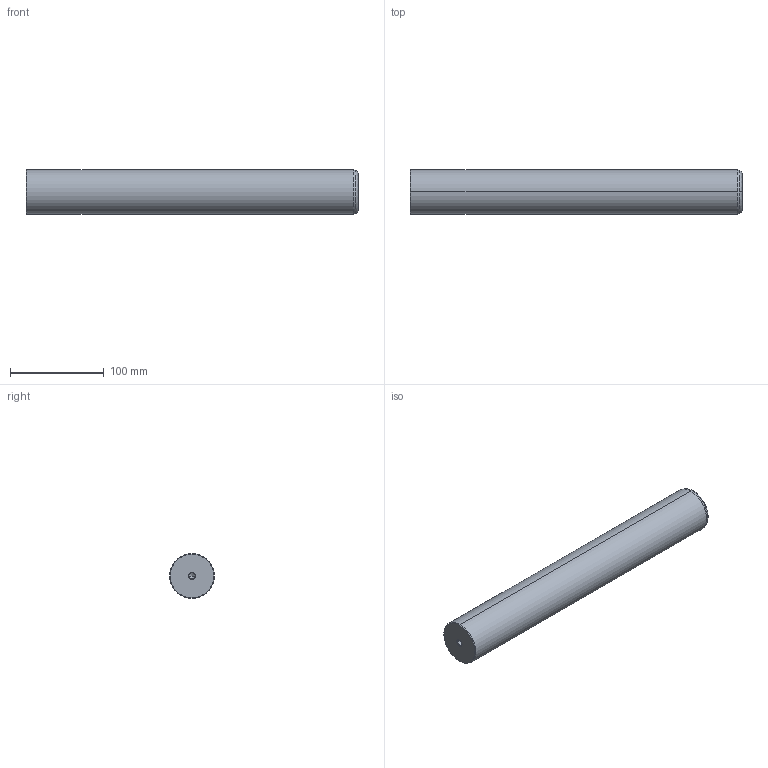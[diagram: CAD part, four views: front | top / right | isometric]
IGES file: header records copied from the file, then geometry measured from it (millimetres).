
Start section: START RECORD GO HERE.
Global section: file name: 720-48x355.igs; native system: DASSAULT SYSTEMES CATIA V5 R20 - www.3ds.com; preprocessor: CATIA Version 5 Release 20 ; author: Utente; organization: NB04-ASUS; date: 20201230.224824; units: millimetre
Bounding box: 355 x 48 x 48 mm (x, y, z)
Surface area: 57760.2 mm2 (no closed solid volume)
Topology: 0 solids, 0 shells, 22 faces, 120 edges, 116 vertices
Faces by surface type: revolution 20, plane 2
